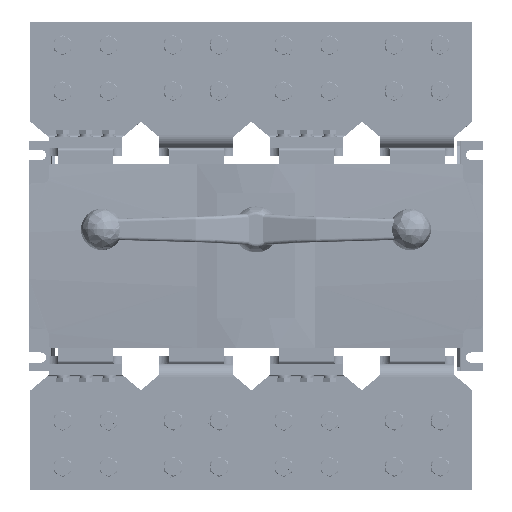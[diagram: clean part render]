
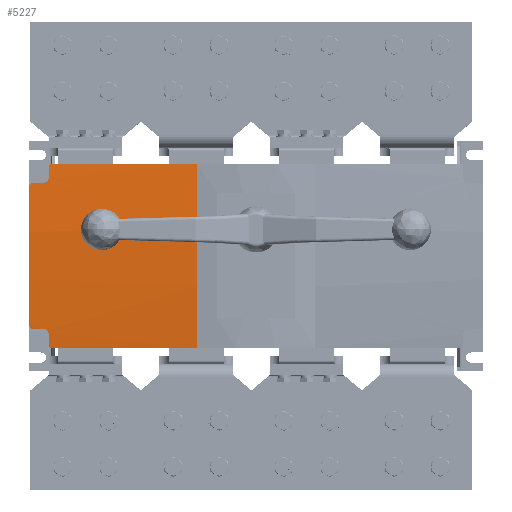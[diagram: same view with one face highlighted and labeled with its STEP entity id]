
A CAD part, top view. The second image highlights one B-rep face of the part: STEP entity #5227.
In plain terms, the highlighted cylindrical face has radius 1252 mm (diameter 2504 mm), a partial arc.
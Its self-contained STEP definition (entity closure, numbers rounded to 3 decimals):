
#4533=DIRECTION('',(1.,0.,0.));
#4534=VECTOR('',#4533,157.5);
#4535=CARTESIAN_POINT('',(64.5,100.,20.));
#4536=LINE('',#4535,#4534);
#4537=CARTESIAN_POINT('',(225.,85.5,21.077));
#4538=CARTESIAN_POINT('',(225.,84.8,21.125));
#4539=CARTESIAN_POINT('',(225.212,83.475,21.215));
#4540=CARTESIAN_POINT('',(226.162,81.604,21.338));
#4541=CARTESIAN_POINT('',(227.609,80.158,21.432));
#4542=CARTESIAN_POINT('',(229.483,79.209,21.492));
#4543=CARTESIAN_POINT('',(230.804,79.,21.505));
#4544=CARTESIAN_POINT('',(231.5,79.,21.505));
#4546=DIRECTION('',(1.,0.,0.));
#4547=VECTOR('',#4546,11.5);
#4548=CARTESIAN_POINT('',(231.5,79.,21.505));
#4549=LINE('',#4548,#4547);
#4550=CARTESIAN_POINT('',(243.,79.,21.505));
#4551=CARTESIAN_POINT('',(243.326,79.,21.505));
#4552=CARTESIAN_POINT('',(243.943,78.899,21.512));
#4553=CARTESIAN_POINT('',(244.796,78.464,21.539));
#4554=CARTESIAN_POINT('',(245.467,77.794,21.581));
#4555=CARTESIAN_POINT('',(245.9,76.94,21.634));
#4556=CARTESIAN_POINT('',(246.,76.326,21.671));
#4557=CARTESIAN_POINT('',(246.,75.999,21.691));
#4559=CARTESIAN_POINT('',(246.,-75.999,21.691));
#4560=CARTESIAN_POINT('',(246.,-76.326,21.671));
#4561=CARTESIAN_POINT('',(245.9,-76.94,21.634));
#4562=CARTESIAN_POINT('',(245.467,-77.794,21.581));
#4563=CARTESIAN_POINT('',(244.796,-78.464,21.539));
#4564=CARTESIAN_POINT('',(243.943,-78.899,21.512));
#4565=CARTESIAN_POINT('',(243.326,-79.,21.505));
#4566=CARTESIAN_POINT('',(243.,-79.,21.505));
#4568=DIRECTION('',(-1.,0.,0.));
#4569=VECTOR('',#4568,11.5);
#4570=CARTESIAN_POINT('',(243.,-79.,21.505));
#4571=LINE('',#4570,#4569);
#4572=CARTESIAN_POINT('',(231.5,-79.,21.505));
#4573=CARTESIAN_POINT('',(230.806,-79.,21.505));
#4574=CARTESIAN_POINT('',(229.489,-79.208,21.492));
#4575=CARTESIAN_POINT('',(227.612,-80.156,21.432));
#4576=CARTESIAN_POINT('',(226.165,-81.6,21.338));
#4577=CARTESIAN_POINT('',(225.214,-83.468,21.215));
#4578=CARTESIAN_POINT('',(225.,-84.798,21.125));
#4579=CARTESIAN_POINT('',(225.,-85.5,21.077));
#4581=DIRECTION('',(-1.,0.,0.));
#4582=VECTOR('',#4581,157.5);
#4583=CARTESIAN_POINT('',(222.,-100.,20.));
#4584=LINE('',#4583,#4582);
#4589=CARTESIAN_POINT('',(64.5,0.,-1228.));
#4590=DIRECTION('',(1.,0.,0.));
#4591=DIRECTION('',(0.,0.08,0.997));
#4592=AXIS2_PLACEMENT_3D('',#4589,#4590,#4591);
#4794=CARTESIAN_POINT('',(225.,97.,20.237));
#4795=CARTESIAN_POINT('',(225.,97.312,20.213));
#4796=CARTESIAN_POINT('',(224.903,97.937,20.164));
#4797=CARTESIAN_POINT('',(224.467,98.793,20.096));
#4798=CARTESIAN_POINT('',(223.792,99.469,20.043));
#4799=CARTESIAN_POINT('',(222.932,99.904,20.008));
#4800=CARTESIAN_POINT('',(222.309,100.,20.));
#4801=CARTESIAN_POINT('',(222.,100.,20.));
#4807=CARTESIAN_POINT('',(225.,0.,-1228.));
#4808=DIRECTION('',(-1.,0.,0.));
#4809=DIRECTION('',(0.,0.068,0.998));
#4810=AXIS2_PLACEMENT_3D('',#4807,#4808,#4809);
#4824=CARTESIAN_POINT('',(222.,-100.,20.));
#4825=CARTESIAN_POINT('',(222.31,-100.,20.));
#4826=CARTESIAN_POINT('',(222.934,-99.903,20.008));
#4827=CARTESIAN_POINT('',(223.792,-99.468,20.043));
#4828=CARTESIAN_POINT('',(224.467,-98.794,20.096));
#4829=CARTESIAN_POINT('',(224.903,-97.937,20.164));
#4830=CARTESIAN_POINT('',(225.,-97.312,20.213));
#4831=CARTESIAN_POINT('',(225.,-97.,20.237));
#4841=CARTESIAN_POINT('',(225.,0.,-1228.));
#4842=DIRECTION('',(-1.,0.,0.));
#4843=DIRECTION('',(0.,-0.077,0.997));
#4844=AXIS2_PLACEMENT_3D('',#4841,#4842,#4843);
#4870=CARTESIAN_POINT('',(246.,0.,-1228.));
#4871=DIRECTION('',(-1.,0.,0.));
#4872=DIRECTION('',(0.,-0.061,0.998));
#4873=AXIS2_PLACEMENT_3D('',#4870,#4871,#4872);
#5029=VERTEX_POINT('',#4550);
#5030=VERTEX_POINT('',#4557);
#5031=CARTESIAN_POINT('',(64.5,100.,20.));
#5032=CARTESIAN_POINT('',(64.5,-100.,20.));
#5033=VERTEX_POINT('',#5031);
#5034=VERTEX_POINT('',#5032);
#5035=CARTESIAN_POINT('',(222.,100.,20.));
#5036=VERTEX_POINT('',#5035);
#5037=VERTEX_POINT('',#4794);
#5038=CARTESIAN_POINT('',(225.,85.5,21.077));
#5039=VERTEX_POINT('',#5038);
#5040=VERTEX_POINT('',#4544);
#5041=CARTESIAN_POINT('',(246.,-76.,21.691));
#5042=VERTEX_POINT('',#5041);
#5043=VERTEX_POINT('',#4566);
#5044=CARTESIAN_POINT('',(231.5,-79.,21.505));
#5045=VERTEX_POINT('',#5044);
#5046=VERTEX_POINT('',#4579);
#5047=CARTESIAN_POINT('',(225.,-97.,20.237));
#5048=VERTEX_POINT('',#5047);
#5049=VERTEX_POINT('',#4824);
#5193=CARTESIAN_POINT('',(246.,0.,-1228.));
#5194=DIRECTION('',(1.,0.,0.));
#5195=DIRECTION('',(0.,1.,0.));
#5196=AXIS2_PLACEMENT_3D('',#5193,#5194,#5195);
#5197=CYLINDRICAL_SURFACE('',#5196,1252.);
#5199=ORIENTED_EDGE('',*,*,#5198,.F.);
#5201=ORIENTED_EDGE('',*,*,#5200,.T.);
#5203=ORIENTED_EDGE('',*,*,#5202,.F.);
#5205=ORIENTED_EDGE('',*,*,#5204,.F.);
#5207=ORIENTED_EDGE('',*,*,#5206,.T.);
#5209=ORIENTED_EDGE('',*,*,#5208,.T.);
#5210=ORIENTED_EDGE('',*,*,#5183,.T.);
#5212=ORIENTED_EDGE('',*,*,#5211,.F.);
#5214=ORIENTED_EDGE('',*,*,#5213,.T.);
#5216=ORIENTED_EDGE('',*,*,#5215,.T.);
#5218=ORIENTED_EDGE('',*,*,#5217,.T.);
#5220=ORIENTED_EDGE('',*,*,#5219,.F.);
#5222=ORIENTED_EDGE('',*,*,#5221,.F.);
#5224=ORIENTED_EDGE('',*,*,#5223,.T.);
#5225=EDGE_LOOP('',(#5199,#5201,#5203,#5205,#5207,#5209,#5210,#5212,#5214,#5216,
#5218,#5220,#5222,#5224));
#5226=FACE_OUTER_BOUND('',#5225,.F.);
#4545=B_SPLINE_CURVE_WITH_KNOTS('',3,(#4537,#4538,#4539,#4540,#4541,#4542,#4543,
#4544),.UNSPECIFIED.,.F.,.F.,(4,1,1,1,1,4),(0.,0.2,0.4,0.6,0.8,1.),
.UNSPECIFIED.);
#4558=B_SPLINE_CURVE_WITH_KNOTS('',3,(#4550,#4551,#4552,#4553,#4554,#4555,#4556,
#4557),.UNSPECIFIED.,.F.,.F.,(4,1,1,1,1,4),(0.,0.2,0.4,0.6,0.8,1.),
.UNSPECIFIED.);
#4567=B_SPLINE_CURVE_WITH_KNOTS('',3,(#4559,#4560,#4561,#4562,#4563,#4564,#4565,
#4566),.UNSPECIFIED.,.F.,.F.,(4,1,1,1,1,4),(0.,0.2,0.4,0.6,0.8,1.),
.UNSPECIFIED.);
#4580=B_SPLINE_CURVE_WITH_KNOTS('',3,(#4572,#4573,#4574,#4575,#4576,#4577,#4578,
#4579),.UNSPECIFIED.,.F.,.F.,(4,1,1,1,1,4),(0.,0.2,0.4,0.6,0.8,1.),
.UNSPECIFIED.);
#4593=CIRCLE('',#4592,1252.);
#4802=B_SPLINE_CURVE_WITH_KNOTS('',3,(#4794,#4795,#4796,#4797,#4798,#4799,#4800,
#4801),.UNSPECIFIED.,.F.,.F.,(4,1,1,1,1,4),(0.,0.2,0.4,0.6,0.8,1.),
.UNSPECIFIED.);
#4811=CIRCLE('',#4810,1252.);
#4832=B_SPLINE_CURVE_WITH_KNOTS('',3,(#4824,#4825,#4826,#4827,#4828,#4829,#4830,
#4831),.UNSPECIFIED.,.F.,.F.,(4,1,1,1,1,4),(0.,0.2,0.4,0.6,0.8,1.),
.UNSPECIFIED.);
#4845=CIRCLE('',#4844,1252.);
#4874=CIRCLE('',#4873,1252.);
#5183=EDGE_CURVE('',#5029,#5030,#4558,.T.);
#5198=EDGE_CURVE('',#5033,#5034,#4593,.T.);
#5200=EDGE_CURVE('',#5033,#5036,#4536,.T.);
#5202=EDGE_CURVE('',#5037,#5036,#4802,.T.);
#5204=EDGE_CURVE('',#5039,#5037,#4811,.T.);
#5206=EDGE_CURVE('',#5039,#5040,#4545,.T.);
#5208=EDGE_CURVE('',#5040,#5029,#4549,.T.);
#5211=EDGE_CURVE('',#5042,#5030,#4874,.T.);
#5213=EDGE_CURVE('',#5042,#5043,#4567,.T.);
#5215=EDGE_CURVE('',#5043,#5045,#4571,.T.);
#5217=EDGE_CURVE('',#5045,#5046,#4580,.T.);
#5219=EDGE_CURVE('',#5048,#5046,#4845,.T.);
#5221=EDGE_CURVE('',#5049,#5048,#4832,.T.);
#5223=EDGE_CURVE('',#5049,#5034,#4584,.T.);
#5227=ADVANCED_FACE('',(#5226),#5197,.T.);
